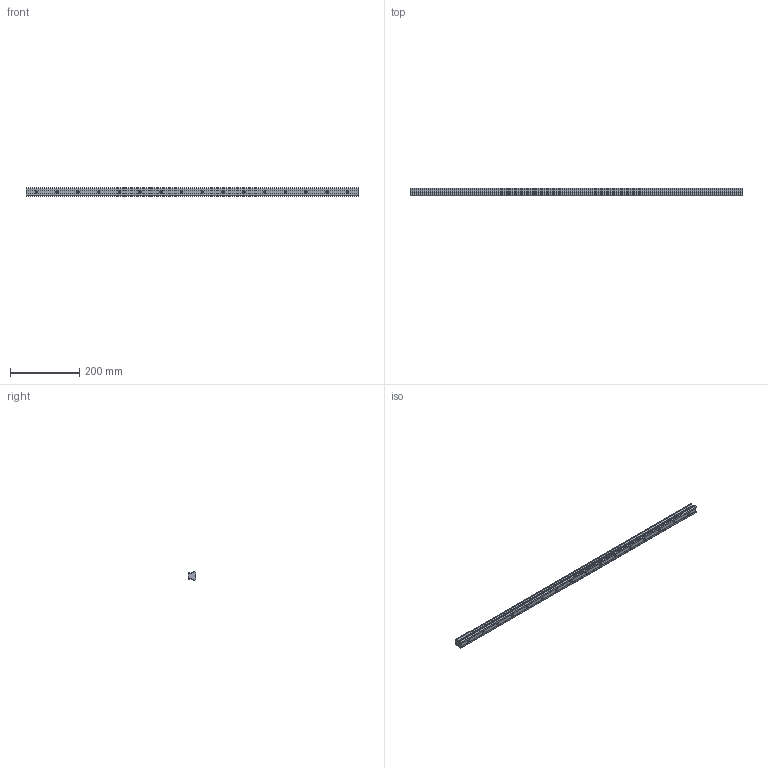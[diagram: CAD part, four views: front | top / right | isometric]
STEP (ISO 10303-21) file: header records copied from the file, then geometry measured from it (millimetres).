
FILE_DESCRIPTION (( 'STEP AP203' ), '1' );
FILE_NAME ('L1018.25R-0960.step', '2023-08-06T10:35:09', ( '' ), ( '' ), 'SwSTEP 2.0', 'SolidWorks 2019', '' );
FILE_SCHEMA (( 'CONFIG_CONTROL_DESIGN' ));
Length unit declared in the file: millimetre
Products named in the file (1): L1018.25R-0960
Bounding box: 960 x 21.8 x 25 mm (x, y, z)
Volume: 399252.6 mm3; surface area: 96173 mm2
Topology: 1 solids, 1 shells, 173 faces, 401 edges, 230 vertices
Faces by surface type: cylinder 67, cone 64, plane 42
Entity records: 4742 total; most frequent: DIRECTION 883, CARTESIAN_POINT 773, ORIENTED_EDGE 738, EDGE_CURVE 369, AXIS2_PLACEMENT_3D 340, VERTEX_POINT 230, EDGE_LOOP 205, VECTOR 203
